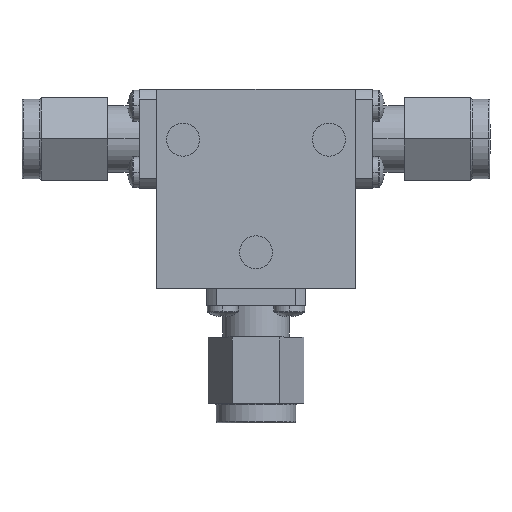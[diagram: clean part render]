
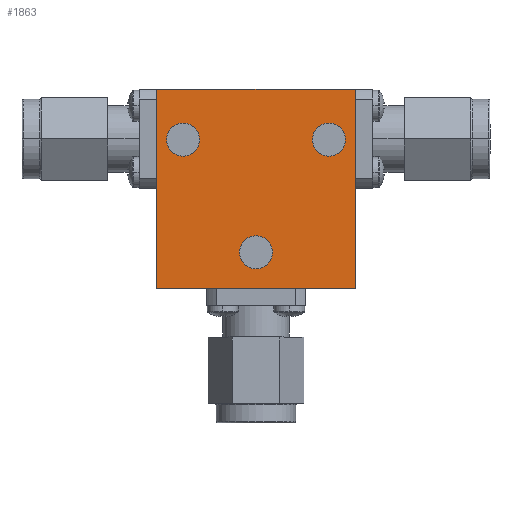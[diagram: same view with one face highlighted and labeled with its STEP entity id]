
A CAD part, top view. The second image highlights one B-rep face of the part: STEP entity #1863.
In plain terms, the highlighted planar face has unit normal (0, 0, 1) as drawn and (0, 0, -1) by its records, which use the part's own axes.
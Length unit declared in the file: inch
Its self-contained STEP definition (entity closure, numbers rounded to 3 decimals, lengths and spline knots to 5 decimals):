
#21 = CARTESIAN_POINT ( 'NONE',  ( 0., -0.24, -0.19 ) ) ;
#26 = DIRECTION ( 'NONE',  ( 1., 0., 0. ) ) ;
#27 = EDGE_CURVE ( 'NONE', #570, #2571, #1988, .T. ) ;
#103 = CARTESIAN_POINT ( 'NONE',  ( 0.2125, 0.185, -0.19 ) ) ;
#145 = AXIS2_PLACEMENT_3D ( 'NONE', #2932, #3200, #386 ) ;
#147 = VERTEX_POINT ( 'NONE', #2312 ) ;
#161 = VERTEX_POINT ( 'NONE', #2592 ) ;
#169 = FACE_BOUND ( 'NONE', #507, .T. ) ;
#197 = AXIS2_PLACEMENT_3D ( 'NONE', #2271, #766, #530 ) ;
#348 = ORIENTED_EDGE ( 'NONE', *, *, #2985, .T. ) ;
#386 = DIRECTION ( 'NONE',  ( 1., 0., 0. ) ) ;
#402 = DIRECTION ( 'NONE',  ( 1., 0., 0. ) ) ;
#424 = EDGE_LOOP ( 'NONE', ( #712, #3160 ) ) ;
#485 = AXIS2_PLACEMENT_3D ( 'NONE', #21, #1842, #1810 ) ;
#507 = EDGE_LOOP ( 'NONE', ( #681, #1383 ) ) ;
#530 = DIRECTION ( 'NONE',  ( 1., 0., 0. ) ) ;
#561 = LINE ( 'NONE', #1517, #3210 ) ;
#570 = VERTEX_POINT ( 'NONE', #2255 ) ;
#595 = CARTESIAN_POINT ( 'NONE',  ( -0.375, 0.375, -0.19 ) ) ;
#634 = CARTESIAN_POINT ( 'NONE',  ( -0.375, 0.375, -0.19 ) ) ;
#681 = ORIENTED_EDGE ( 'NONE', *, *, #1512, .T. ) ;
#711 = DIRECTION ( 'NONE',  ( 1., 0., 0. ) ) ;
#712 = ORIENTED_EDGE ( 'NONE', *, *, #1111, .T. ) ;
#761 = EDGE_CURVE ( 'NONE', #2605, #2174, #2465, .T. ) ;
#766 = DIRECTION ( 'NONE',  ( 0., 0., 1. ) ) ;
#821 = ORIENTED_EDGE ( 'NONE', *, *, #2370, .F. ) ;
#919 = CIRCLE ( 'NONE', #1515, 0.0625 ) ;
#944 = VECTOR ( 'NONE', #2795, 39.37008 ) ;
#997 = EDGE_CURVE ( 'NONE', #161, #1295, #561, .T. ) ;
#1024 = VERTEX_POINT ( 'NONE', #1754 ) ;
#1111 = EDGE_CURVE ( 'NONE', #2174, #2605, #919, .T. ) ;
#1125 = DIRECTION ( 'NONE',  ( 1., 0., 0. ) ) ;
#1135 = ORIENTED_EDGE ( 'NONE', *, *, #2561, .F. ) ;
#1163 = VERTEX_POINT ( 'NONE', #103 ) ;
#1257 = LINE ( 'NONE', #2554, #944 ) ;
#1295 = VERTEX_POINT ( 'NONE', #2705 ) ;
#1380 = ORIENTED_EDGE ( 'NONE', *, *, #2186, .F. ) ;
#1383 = ORIENTED_EDGE ( 'NONE', *, *, #2408, .T. ) ;
#1445 = PLANE ( 'NONE',  #3265 ) ;
#1477 = DIRECTION ( 'NONE',  ( 0., 0., 1. ) ) ;
#1499 = FACE_OUTER_BOUND ( 'NONE', #1965, .T. ) ;
#1512 = EDGE_CURVE ( 'NONE', #1024, #1163, #1736, .T. ) ;
#1513 = CARTESIAN_POINT ( 'NONE',  ( -0.3375, 0.185, -0.19 ) ) ;
#1515 = AXIS2_PLACEMENT_3D ( 'NONE', #1902, #2618, #1125 ) ;
#1517 = CARTESIAN_POINT ( 'NONE',  ( -0.375, -0.375, -0.19 ) ) ;
#1577 = FACE_BOUND ( 'NONE', #2787, .T. ) ;
#1635 = AXIS2_PLACEMENT_3D ( 'NONE', #1921, #3199, #402 ) ;
#1736 = CIRCLE ( 'NONE', #2975, 0.0625 ) ;
#1754 = CARTESIAN_POINT ( 'NONE',  ( 0.3375, 0.185, -0.19 ) ) ;
#1810 = DIRECTION ( 'NONE',  ( 1., 0., 0. ) ) ;
#1823 = CARTESIAN_POINT ( 'NONE',  ( 0.275, 0.185, -0.19 ) ) ;
#1842 = DIRECTION ( 'NONE',  ( 0., 0., 1. ) ) ;
#1863 = ADVANCED_FACE ( 'NONE', ( #169, #2838, #1577, #1499 ), #1445, .F. ) ;
#1902 = CARTESIAN_POINT ( 'NONE',  ( 0., -0.24, -0.19 ) ) ;
#1904 = DIRECTION ( 'NONE',  ( 0., -1., 0. ) ) ;
#1921 = CARTESIAN_POINT ( 'NONE',  ( -0.275, 0.185, -0.19 ) ) ;
#1965 = EDGE_LOOP ( 'NONE', ( #1380, #2069, #821, #1135 ) ) ;
#1988 = CIRCLE ( 'NONE', #197, 0.0625 ) ;
#2068 = CARTESIAN_POINT ( 'NONE',  ( 0.0625, -0.24, -0.19 ) ) ;
#2069 = ORIENTED_EDGE ( 'NONE', *, *, #997, .F. ) ;
#2123 = VECTOR ( 'NONE', #2252, 39.37008 ) ;
#2174 = VERTEX_POINT ( 'NONE', #2068 ) ;
#2186 = EDGE_CURVE ( 'NONE', #1295, #147, #1257, .T. ) ;
#2252 = DIRECTION ( 'NONE',  ( -1., 0., 0. ) ) ;
#2255 = CARTESIAN_POINT ( 'NONE',  ( -0.2125, 0.185, -0.19 ) ) ;
#2266 = CARTESIAN_POINT ( 'NONE',  ( -0.0625, -0.24, -0.19 ) ) ;
#2271 = CARTESIAN_POINT ( 'NONE',  ( -0.275, 0.185, -0.19 ) ) ;
#2312 = CARTESIAN_POINT ( 'NONE',  ( 0.375, 0.375, -0.19 ) ) ;
#2370 = EDGE_CURVE ( 'NONE', #3011, #161, #3045, .T. ) ;
#2408 = EDGE_CURVE ( 'NONE', #1163, #1024, #3009, .T. ) ;
#2458 = ORIENTED_EDGE ( 'NONE', *, *, #27, .T. ) ;
#2465 = CIRCLE ( 'NONE', #485, 0.0625 ) ;
#2554 = CARTESIAN_POINT ( 'NONE',  ( 0.375, 0.375, -0.19 ) ) ;
#2561 = EDGE_CURVE ( 'NONE', #147, #3011, #2966, .T. ) ;
#2571 = VERTEX_POINT ( 'NONE', #1513 ) ;
#2580 = CIRCLE ( 'NONE', #1635, 0.0625 ) ;
#2592 = CARTESIAN_POINT ( 'NONE',  ( -0.375, -0.375, -0.19 ) ) ;
#2605 = VERTEX_POINT ( 'NONE', #2266 ) ;
#2618 = DIRECTION ( 'NONE',  ( 0., 0., 1. ) ) ;
#2705 = CARTESIAN_POINT ( 'NONE',  ( 0.375, -0.375, -0.19 ) ) ;
#2765 = CARTESIAN_POINT ( 'NONE',  ( -0.375, 0.375, -0.19 ) ) ;
#2787 = EDGE_LOOP ( 'NONE', ( #2458, #348 ) ) ;
#2795 = DIRECTION ( 'NONE',  ( 0., 1., 0. ) ) ;
#2818 = DIRECTION ( 'NONE',  ( 0., 0., 1. ) ) ;
#2838 = FACE_BOUND ( 'NONE', #424, .T. ) ;
#2932 = CARTESIAN_POINT ( 'NONE',  ( 0.275, 0.185, -0.19 ) ) ;
#2966 = LINE ( 'NONE', #2765, #2123 ) ;
#2971 = VECTOR ( 'NONE', #1904, 39.37008 ) ;
#2975 = AXIS2_PLACEMENT_3D ( 'NONE', #1823, #2818, #26 ) ;
#2985 = EDGE_CURVE ( 'NONE', #2571, #570, #2580, .T. ) ;
#2995 = CARTESIAN_POINT ( 'NONE',  ( 0., 0., -0.19 ) ) ;
#3009 = CIRCLE ( 'NONE', #145, 0.0625 ) ;
#3011 = VERTEX_POINT ( 'NONE', #595 ) ;
#3029 = DIRECTION ( 'NONE',  ( 1., 0., 0. ) ) ;
#3045 = LINE ( 'NONE', #634, #2971 ) ;
#3160 = ORIENTED_EDGE ( 'NONE', *, *, #761, .T. ) ;
#3199 = DIRECTION ( 'NONE',  ( 0., 0., 1. ) ) ;
#3200 = DIRECTION ( 'NONE',  ( 0., 0., 1. ) ) ;
#3210 = VECTOR ( 'NONE', #3029, 39.37008 ) ;
#3265 = AXIS2_PLACEMENT_3D ( 'NONE', #2995, #1477, #711 ) ;
